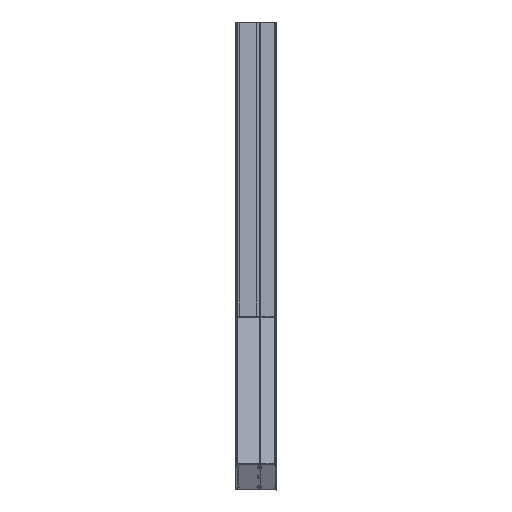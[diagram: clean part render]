
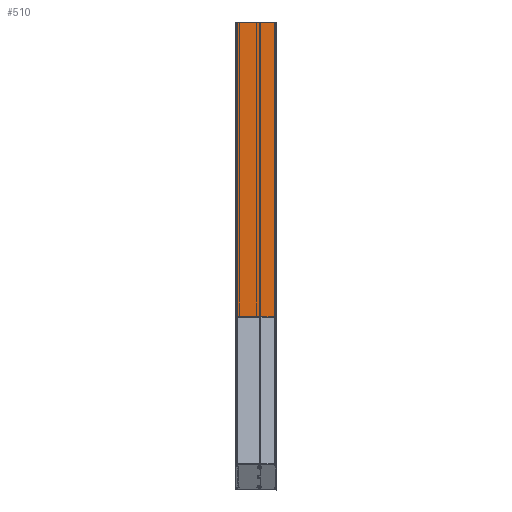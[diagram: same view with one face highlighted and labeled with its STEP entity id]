
A CAD part, left-side view. The second image highlights one B-rep face of the part: STEP entity #510.
In plain terms, the highlighted planar face has unit normal (-1, 0, 0).
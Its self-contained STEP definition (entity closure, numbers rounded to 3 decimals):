
#510=ADVANCED_FACE('',(#1650),#1652,.T.);
#1650=FACE_BOUND('',#1651,.T.);
#1651=EDGE_LOOP('',(#5244,#5245,#5246,#5247));
#1652=PLANE('',#1653);
#1653=AXIS2_PLACEMENT_3D('',#1654,#1655,#1656);
#1654=CARTESIAN_POINT('',(-25.,4.,-253.5));
#1655=DIRECTION('',(-1.,0.,0.));
#1656=DIRECTION('',(0.,-1.,0.));
#5244=ORIENTED_EDGE('',*,*,#7268,.T.);
#5245=ORIENTED_EDGE('',*,*,#7653,.T.);
#5246=ORIENTED_EDGE('',*,*,#7525,.F.);
#5247=ORIENTED_EDGE('',*,*,#7654,.F.);
#7268=EDGE_CURVE('',#8672,#8670,#8673,.F.);
#7525=EDGE_CURVE('',#9178,#8909,#9180,.T.);
#7653=EDGE_CURVE('',#8670,#8909,#9361,.T.);
#7654=EDGE_CURVE('',#8672,#9178,#9362,.T.);
#8670=VERTEX_POINT('',#11091);
#8672=VERTEX_POINT('',#11096);
#8673=LINE('',#11097,#11098);
#8909=VERTEX_POINT('',#11649);
#9178=VERTEX_POINT('',#12269);
#9180=LINE('',#12274,#12275);
#9361=LINE('',#12758,#12759);
#9362=LINE('',#12761,#12762);
#11091=CARTESIAN_POINT('',(-25.,-63.75,-239.066));
#11096=CARTESIAN_POINT('',(-25.,4.,-239.066));
#11097=CARTESIAN_POINT('',(-25.,-63.75,-239.066));
#11098=VECTOR('',#11099,1.);
#11099=DIRECTION('',(0.,1.,0.));
#11649=CARTESIAN_POINT('',(-25.,-63.75,253.5));
#12269=CARTESIAN_POINT('',(-25.,4.,253.5));
#12274=CARTESIAN_POINT('',(-25.,4.,253.5));
#12275=VECTOR('',#12276,1.);
#12276=DIRECTION('',(0.,-1.,0.));
#12758=CARTESIAN_POINT('',(-25.,-63.75,-239.066));
#12759=VECTOR('',#12760,1.);
#12760=DIRECTION('',(0.,0.,1.));
#12761=CARTESIAN_POINT('',(-25.,4.,-239.066));
#12762=VECTOR('',#12763,1.);
#12763=DIRECTION('',(0.,0.,1.));
